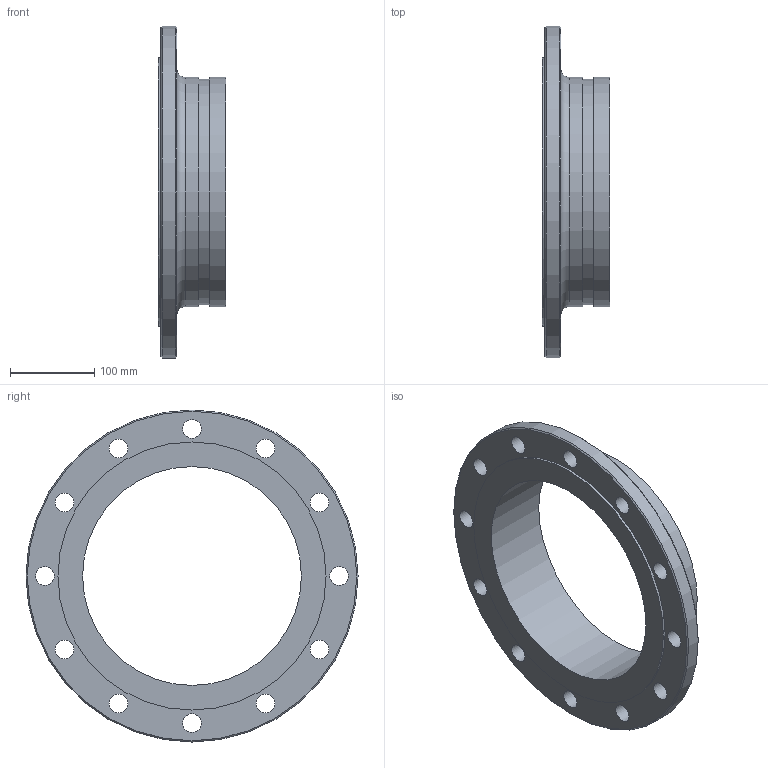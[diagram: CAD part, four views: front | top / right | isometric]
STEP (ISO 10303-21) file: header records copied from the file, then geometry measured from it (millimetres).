
FILE_DESCRIPTION(/* description */ ('VIC FLG ADPTR NIP PN10 RF No 45RE (OGSxFLG)'),/* implementation_level */ '2;1');
FILE_NAME(/* name */ 'C:\Users\vjadhav\OneDrive - Victaulic Company\Desktop\New folder\Victaulic_IPS_Flgd Adptr Nip_PN10 RF_No 45RE (OGSxFLG)\Victaulic_IPS_Flgd Adptr Nip_PN10 RF_No 45RE (OGSxFLG)_10 (250).stp',/* time_stamp */ '2024-04-01T13:02:37+02:00',/* author */ ('jheald'),/* organization */ ('Victaulic'),/* preprocessor_version */ 'ST-DEVELOPER v18.1',/* originating_system */ 'Autodesk Inventor 2020',/* authorisation */ '');
FILE_SCHEMA (('AUTOMOTIVE_DESIGN { 1 0 10303 214 3 1 1 }'));
Length unit declared in the file: inch
Products named in the file (1): 045RE-10.0
Bounding box: 80.01 x 395 x 395 mm (x, y, z)
Volume: 1613633.1 mm3; surface area: 285183.4 mm2
Topology: 1 solids, 1 shells, 27 faces, 74 edges, 53 vertices
Faces by surface type: cylinder 18, plane 6, cone 2, torus 1
Full cylindrical faces by diameter (mm): 22.098 x12, 260.35 x1, 268.275 x1, 273.05 x2, 318.999 x1, 394.995 x1
Entity records: 1032 total; most frequent: DIRECTION 184, CARTESIAN_POINT 155, ORIENTED_EDGE 148, AXIS2_PLACEMENT_3D 82, EDGE_CURVE 74, EDGE_LOOP 57, CIRCLE 54, VERTEX_POINT 53
